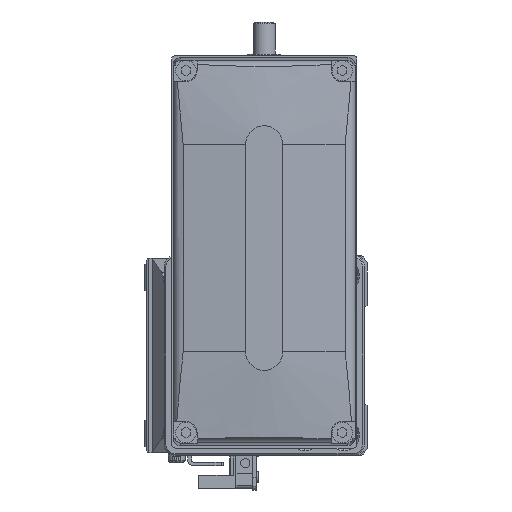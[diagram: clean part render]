
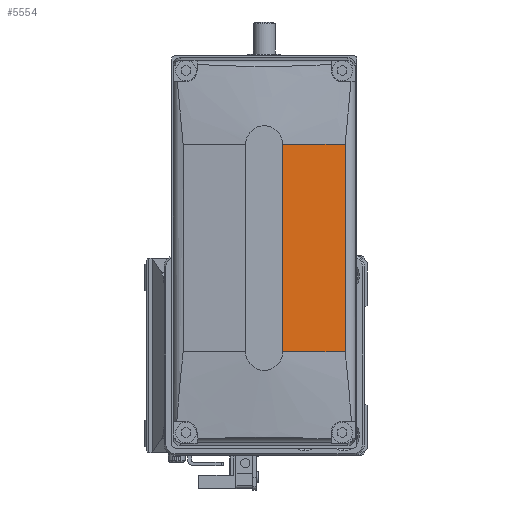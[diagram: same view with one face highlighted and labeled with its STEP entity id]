
A CAD part, left-side view. The second image highlights one B-rep face of the part: STEP entity #5554.
In plain terms, the highlighted planar face has unit normal (-0.996, -0.087, 0) as drawn and (-0.996, 0, -0.087) by its records, which use the part's own axes.
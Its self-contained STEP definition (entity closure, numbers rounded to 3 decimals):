
#1034 = VERTEX_POINT ( 'NONE', #2394 ) ;
#1712 = PLANE ( 'NONE',  #15642 ) ;
#2394 = CARTESIAN_POINT ( 'NONE',  ( -50., 28., -5. ) ) ;
#2519 = VERTEX_POINT ( 'NONE', #3432 ) ;
#2783 = DIRECTION ( 'NONE',  ( 0.087, 0., -0.996 ) ) ;
#3432 = CARTESIAN_POINT ( 'NONE',  ( -48.525, -28., -21.861 ) ) ;
#4618 = EDGE_CURVE ( 'NONE', #20402, #2519, #25029, .T. ) ;
#4663 = DIRECTION ( 'NONE',  ( -0.996, 0., -0.087 ) ) ;
#4814 = CARTESIAN_POINT ( 'NONE',  ( -48.525, 28., -21.861 ) ) ;
#5554 = ADVANCED_FACE ( 'NONE', ( #25857 ), #1712, .T. ) ;
#7167 = VECTOR ( 'NONE', #28456, 1000. ) ;
#8862 = CARTESIAN_POINT ( 'NONE',  ( 43606.406, 28., -499000. ) ) ;
#10566 = EDGE_CURVE ( 'NONE', #2519, #10656, #25045, .T. ) ;
#10656 = VERTEX_POINT ( 'NONE', #4814 ) ;
#15437 = VECTOR ( 'NONE', #2783, 1000. ) ;
#15642 = AXIS2_PLACEMENT_3D ( 'NONE', #22159, #4663, #36824 ) ;
#17306 = VECTOR ( 'NONE', #36205, 1000. ) ;
#18844 = EDGE_LOOP ( 'NONE', ( #21840, #32301, #24360, #26021 ) ) ;
#20402 = VERTEX_POINT ( 'NONE', #25358 ) ;
#21120 = EDGE_CURVE ( 'NONE', #10656, #1034, #28956, .T. ) ;
#21840 = ORIENTED_EDGE ( 'NONE', *, *, #21120, .F. ) ;
#22159 = CARTESIAN_POINT ( 'NONE',  ( -50., 128., -5. ) ) ;
#22614 = CARTESIAN_POINT ( 'NONE',  ( -50., 128., -5. ) ) ;
#23028 = VECTOR ( 'NONE', #35149, 1000. ) ;
#24360 = ORIENTED_EDGE ( 'NONE', *, *, #4618, .F. ) ;
#25029 = LINE ( 'NONE', #34141, #15437 ) ;
#25045 = LINE ( 'NONE', #36590, #17306 ) ;
#25358 = CARTESIAN_POINT ( 'NONE',  ( -50., -28., -5. ) ) ;
#25857 = FACE_OUTER_BOUND ( 'NONE', #18844, .T. ) ;
#26021 = ORIENTED_EDGE ( 'NONE', *, *, #31178, .T. ) ;
#28456 = DIRECTION ( 'NONE',  ( 0., 1., 0. ) ) ;
#28956 = LINE ( 'NONE', #8862, #23028 ) ;
#31178 = EDGE_CURVE ( 'NONE', #20402, #1034, #35416, .T. ) ;
#32301 = ORIENTED_EDGE ( 'NONE', *, *, #10566, .F. ) ;
#34141 = CARTESIAN_POINT ( 'NONE',  ( 43606.406, -28., -499000. ) ) ;
#35149 = DIRECTION ( 'NONE',  ( -0.087, 0., 0.996 ) ) ;
#35416 = LINE ( 'NONE', #22614, #7167 ) ;
#36205 = DIRECTION ( 'NONE',  ( 0., 1., 0. ) ) ;
#36590 = CARTESIAN_POINT ( 'NONE',  ( -48.525, 128., -21.861 ) ) ;
#36824 = DIRECTION ( 'NONE',  ( -0.087, 0., 0.996 ) ) ;
